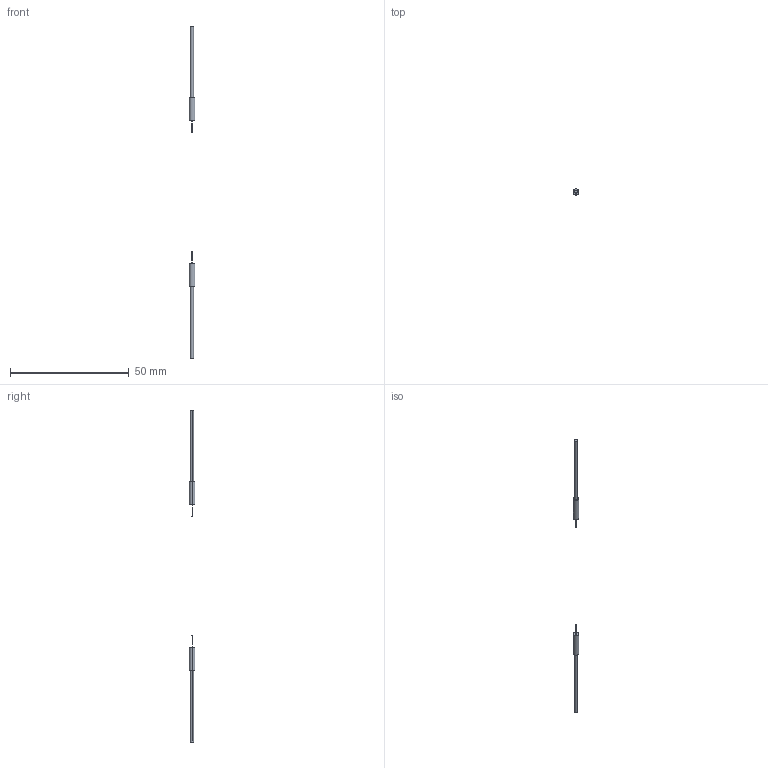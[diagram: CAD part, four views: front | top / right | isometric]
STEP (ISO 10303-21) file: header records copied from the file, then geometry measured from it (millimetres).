
FILE_DESCRIPTION (( 'STEP AP203' ), '1' );
FILE_NAME ('FQ-56.STEP', '2020-11-03T06:58:00', ( '' ), ( '' ), 'SwSTEP 2.0', 'SolidWorks 2020', '' );
FILE_SCHEMA (( 'CONFIG_CONTROL_DESIGN' ));
Length unit declared in the file: millimetre
Products named in the file (3): FQ-56_R; FQ-56; FQ-56_T
Assembly tree (2 placements, depth 2):
  FQ-56
    FQ-56_T
    FQ-56_R
Bounding box: 2.5 x 2.5 x 140 mm (x, y, z)
Volume: 178.5 mm3; surface area: 431.3 mm2
Topology: 2 solids, 2 shells, 32 faces, 60 edges, 40 vertices
Faces by surface type: cylinder 20, plane 12
Entity records: 1129 total; most frequent: DIRECTION 174, CARTESIAN_POINT 137, ORIENTED_EDGE 120, AXIS2_PLACEMENT_3D 77, EDGE_CURVE 60, EDGE_LOOP 40, CIRCLE 40, VERTEX_POINT 40
